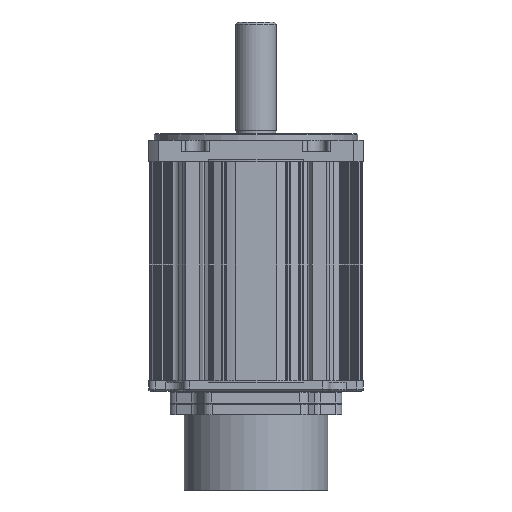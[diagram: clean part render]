
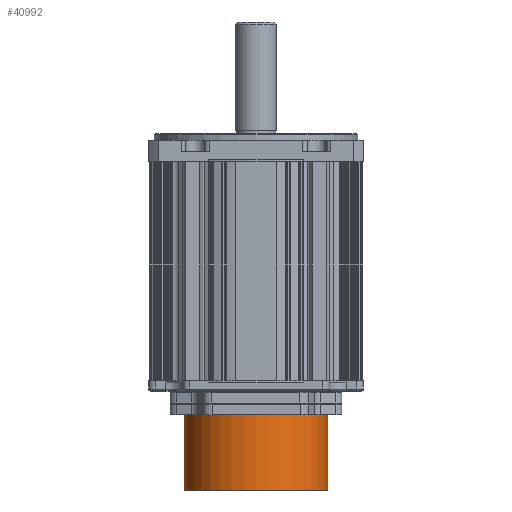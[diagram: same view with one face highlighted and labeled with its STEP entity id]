
A CAD part, front view. The second image highlights one B-rep face of the part: STEP entity #40992.
In plain terms, the highlighted cylindrical face has radius 33.5 mm (diameter 67 mm), a partial arc.
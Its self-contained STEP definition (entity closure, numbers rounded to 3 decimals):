
#282 = CARTESIAN_POINT ( 'NONE',  ( -33.5, 0., -35. ) ) ;
#2234 = CARTESIAN_POINT ( 'NONE',  ( 33.5, 0., 0. ) ) ;
#2723 = DIRECTION ( 'NONE',  ( 0., 0., 1. ) ) ;
#3133 = DIRECTION ( 'NONE',  ( 0., 0., 1. ) ) ;
#3758 = DIRECTION ( 'NONE',  ( 0., 0., 1. ) ) ;
#3857 = DIRECTION ( 'NONE',  ( 1., 0., 0. ) ) ;
#4768 = DIRECTION ( 'NONE',  ( 0., 0., 1. ) ) ;
#7881 = CYLINDRICAL_SURFACE ( 'NONE', #36553, 33.5 ) ;
#8236 = LINE ( 'NONE', #49494, #56740 ) ;
#9493 = CARTESIAN_POINT ( 'NONE',  ( -33.5, 0., 0. ) ) ;
#11477 = AXIS2_PLACEMENT_3D ( 'NONE', #48718, #2723, #3857 ) ;
#12814 = CARTESIAN_POINT ( 'NONE',  ( 33.5, 0., -35. ) ) ;
#16810 = DIRECTION ( 'NONE',  ( 1., 0., 0. ) ) ;
#18923 = VERTEX_POINT ( 'NONE', #12814 ) ;
#19897 = CIRCLE ( 'NONE', #53084, 33.5 ) ;
#22844 = VERTEX_POINT ( 'NONE', #2234 ) ;
#29491 = CIRCLE ( 'NONE', #11477, 33.5 ) ;
#29692 = EDGE_CURVE ( 'NONE', #18923, #22844, #8236, .T. ) ;
#30593 = EDGE_LOOP ( 'NONE', ( #54426, #38470, #54981, #44242 ) ) ;
#31234 = DIRECTION ( 'NONE',  ( 1., 0., 0. ) ) ;
#31523 = CARTESIAN_POINT ( 'NONE',  ( 0., 0., -35. ) ) ;
#31971 = EDGE_CURVE ( 'NONE', #40400, #22844, #29491, .T. ) ;
#36553 = AXIS2_PLACEMENT_3D ( 'NONE', #44094, #3133, #16810 ) ;
#38470 = ORIENTED_EDGE ( 'NONE', *, *, #46373, .T. ) ;
#40383 = EDGE_CURVE ( 'NONE', #49186, #40400, #46010, .T. ) ;
#40400 = VERTEX_POINT ( 'NONE', #9493 ) ;
#40992 = ADVANCED_FACE ( 'NONE', ( #48561 ), #7881, .T. ) ;
#44094 = CARTESIAN_POINT ( 'NONE',  ( 0., 0., -35. ) ) ;
#44242 = ORIENTED_EDGE ( 'NONE', *, *, #31971, .F. ) ;
#46010 = LINE ( 'NONE', #282, #54448 ) ;
#46373 = EDGE_CURVE ( 'NONE', #49186, #18923, #19897, .T. ) ;
#48561 = FACE_OUTER_BOUND ( 'NONE', #30593, .T. ) ;
#48718 = CARTESIAN_POINT ( 'NONE',  ( 0., 0., 0. ) ) ;
#49186 = VERTEX_POINT ( 'NONE', #55437 ) ;
#49494 = CARTESIAN_POINT ( 'NONE',  ( 33.5, 0., -35. ) ) ;
#53084 = AXIS2_PLACEMENT_3D ( 'NONE', #31523, #4768, #31234 ) ;
#54332 = DIRECTION ( 'NONE',  ( 0., 0., 1. ) ) ;
#54426 = ORIENTED_EDGE ( 'NONE', *, *, #40383, .F. ) ;
#54448 = VECTOR ( 'NONE', #54332, 1000. ) ;
#54981 = ORIENTED_EDGE ( 'NONE', *, *, #29692, .T. ) ;
#55437 = CARTESIAN_POINT ( 'NONE',  ( -33.5, 0., -35. ) ) ;
#56740 = VECTOR ( 'NONE', #3758, 1000. ) ;
